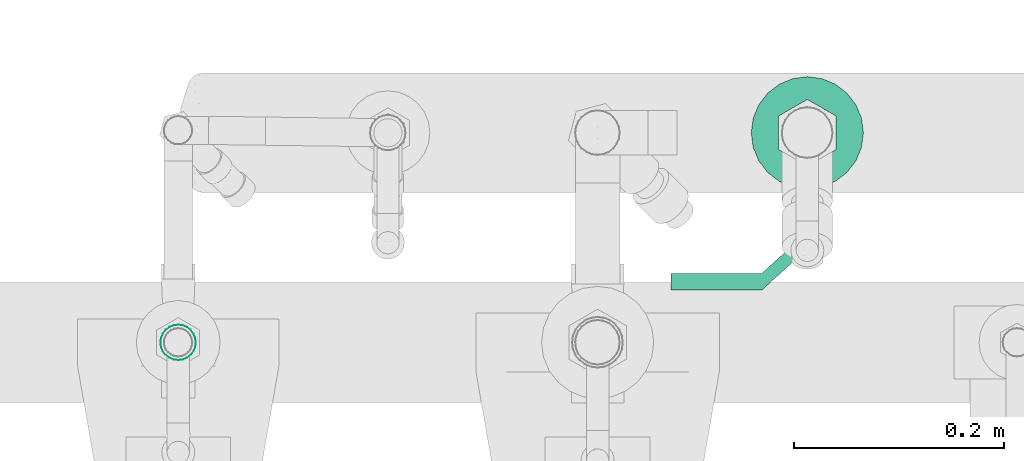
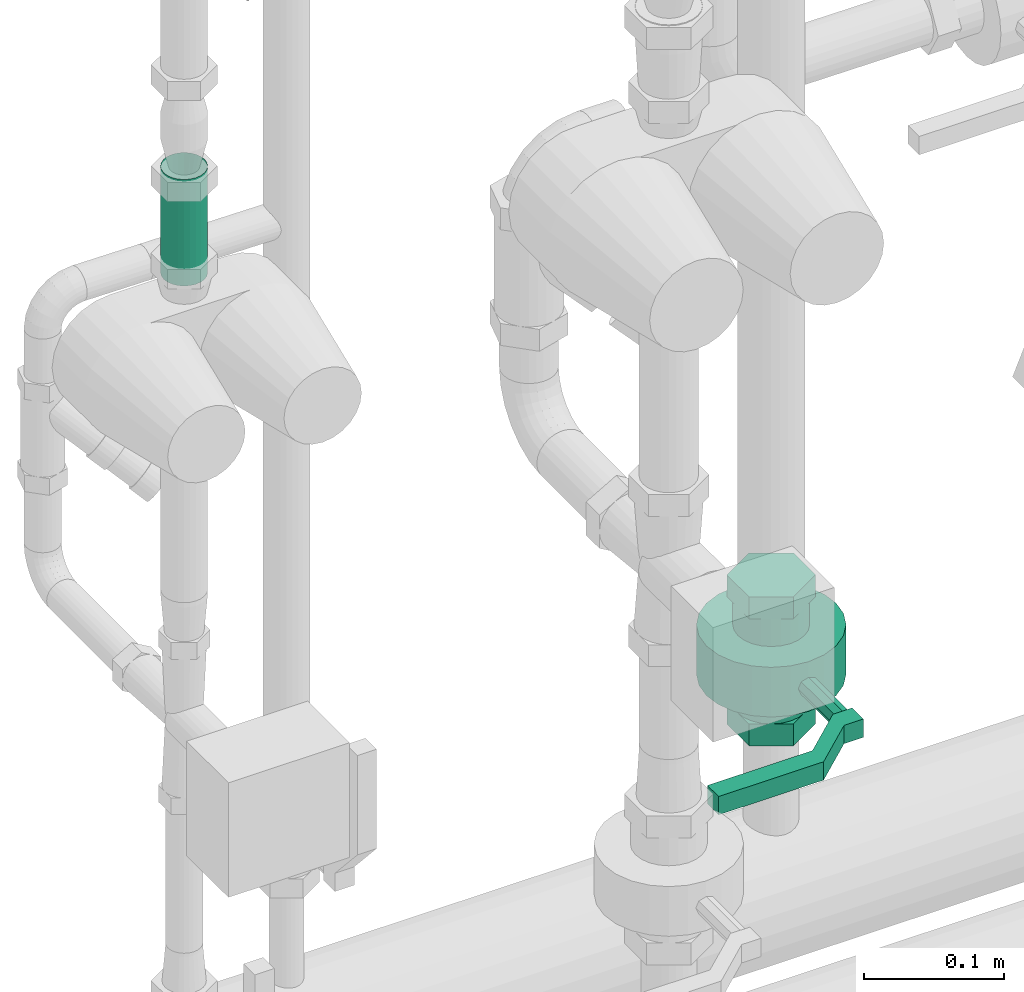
# One storey, part 85 of 374: 1 flow controller, 1 flow segment.
"""IFC2X3 building model written with IfcOpenShell, lengths in metres."""

import ifcopenshell
import ifcopenshell.guid

model = None  # the IFC model being written
_history = None  # IfcOwnerHistory: only IFC2X3 demands one
_inside = {}  # id of a spatial element -> (the spatial element, [elements in it])
_under = {}  # id of a project, library or spatial element -> (it, [spatial elements below it])
_declared = {}  # id of a project -> (the project, [libraries it declares])
_typed = {}  # id of a type object -> (the type object, [elements of that type])
_made_of = {}  # id of a material, layer set ... -> (it, [elements and type objects made of it])


def new_model(schema):
    """Start an empty IFC model of exactly this schema.

    Asked for "IFC4X3", IfcOpenShell would pick the latest addendum, in which some entities
    have other attributes; the version numbers below select the first issue.
    IFC2X3 requires an IfcOwnerHistory on every rooted entity: one is made here for all.
    """
    global model, _history
    if schema == "IFC4X3":
        model = ifcopenshell.file(schema_version=(4, 3, 0, 0))
    else:
        model = ifcopenshell.file(schema=schema)
    _inside.clear()
    _under.clear()
    _declared.clear()
    _typed.clear()
    _made_of.clear()
    _history = None
    if model.schema == "IFC2X3":
        org = make("IfcOrganization", Name="unknown")
        user = make(
            "IfcPersonAndOrganization",
            ThePerson=make("IfcPerson", FamilyName="unknown"),
            TheOrganization=org,
        )
        app = make(
            "IfcApplication",
            ApplicationDeveloper=org,
            Version="unknown",
            ApplicationFullName="unknown",
            ApplicationIdentifier="unknown",
        )
        _history = make(
            "IfcOwnerHistory",
            OwningUser=user,
            OwningApplication=app,
            ChangeAction="ADDED",
            CreationDate=0,
        )
    return model


def make(cls, **values):
    """One entity of the class cls with the attributes given. An attribute that is None is left unset."""
    return model.create_entity(
        cls, **{name: value for name, value in values.items() if value is not None}
    )


def rooted(cls, **values):
    """An entity with a GlobalId (a new one), such as an element, a storey or a relation."""
    return make(cls, GlobalId=ifcopenshell.guid.new(), OwnerHistory=_history, **values)


def si_unit(unit_type, name, prefix=None):
    """IfcSIUnit, for example si_unit("LENGTHUNIT", "METRE", prefix="MILLI")."""
    return make("IfcSIUnit", UnitType=unit_type, Prefix=prefix, Name=name)


def assignment(units):
    """IfcUnitAssignment: the units of a project."""
    return None if units is None else make("IfcUnitAssignment", Units=units)


def point(xyz):
    """IfcCartesianPoint."""
    return None if xyz is None else make("IfcCartesianPoint", Coordinates=xyz)


def direction(xyz):
    """IfcDirection."""
    return None if xyz is None else make("IfcDirection", DirectionRatios=xyz)


def frame(location, z_axis=None, x_axis=None):
    """IfcAxis2Placement3D, a coordinate frame: its origin and axes. An axis left out is left unset."""
    return make(
        "IfcAxis2Placement3D",
        Location=point(location),
        Axis=direction(z_axis),
        RefDirection=direction(x_axis),
    )


def origin():
    """The frame at (0, 0, 0) with its axes left unset."""
    return frame((0.0, 0.0, 0.0))


def place(relative_to, where):
    """IfcLocalPlacement: puts the frame where relative to a parent placement (None: the world)."""
    return make(
        "IfcLocalPlacement", PlacementRelTo=relative_to, RelativePlacement=where
    )


def context(
    kind, dimensions, precision=None, world=None, true_north=None, identifier=None
):
    """IfcGeometricRepresentationContext, for example the 3D "Model" context."""
    return make(
        "IfcGeometricRepresentationContext",
        ContextIdentifier=identifier,
        ContextType=kind,
        CoordinateSpaceDimension=dimensions,
        Precision=precision,
        WorldCoordinateSystem=world,
        TrueNorth=true_north,
    )


def subcontext(parent, identifier, kind, view, scale=None):
    """IfcGeometricRepresentationSubContext, for example "Body" below "Model"."""
    return make(
        "IfcGeometricRepresentationSubContext",
        ContextIdentifier=identifier,
        ContextType=kind,
        ParentContext=parent,
        TargetScale=scale,
        TargetView=view,
    )


def project(units=None, contexts=None):
    """IfcProject with its units and contexts."""
    return rooted(
        "IfcProject",
        Name="project",
        RepresentationContexts=contexts,
        UnitsInContext=assignment(units),
    )


def spatial(cls, under=None, at=None, **own):
    """A site, building, storey or space (cls), placed at a placement, below another one or the project."""
    s = rooted(cls, ObjectPlacement=at, **own)
    if under is not None:
        _under.setdefault(under.id(), (under, []))[1].append(s)
    return s


def faces_of(points, faces, orient=None, outer=None):
    """IfcFace entities. A face is a list of loops; a loop is a list of indices into points, from 0.

    orient and outer hold one flag for each loop. By default every Orientation is true, the
    first loop of a face is its IfcFaceOuterBound and the others are IfcFaceBound.
    """
    made = []
    for i, loops in enumerate(faces):
        bounds = []
        for j, loop in enumerate(loops):
            is_outer = j == 0 if outer is None else outer[i][j]
            bounds.append(
                make(
                    "IfcFaceOuterBound" if is_outer else "IfcFaceBound",
                    Bound=make("IfcPolyLoop", Polygon=[points[k] for k in loop]),
                    Orientation=True if orient is None else orient[i][j],
                )
            )
        made.append(make("IfcFace", Bounds=bounds))
    return made


def open_shell(faces, orient=None, outer=None):
    """The faces of one IfcOpenShell. surface_model builds it on its shared points."""
    return ("IfcOpenShell", faces, orient, outer)


def surface_model(cls, points, shells):
    """IfcFaceBasedSurfaceModel or IfcShellBasedSurfaceModel (cls): surfaces that need not close."""
    shared = [point(p) for p in points]
    made = [make(c, CfsFaces=faces_of(shared, fs, o, b)) for c, fs, o, b in shells]
    if cls == "IfcFaceBasedSurfaceModel":
        return make(cls, FbsmFaces=made)
    return make(cls, SbsmBoundary=made)


def shape(context_of_items, identifier, shape_type, items):
    """IfcShapeRepresentation: the items that make up one representation, for example the "Body"."""
    return make(
        "IfcShapeRepresentation",
        ContextOfItems=context_of_items,
        RepresentationIdentifier=identifier,
        RepresentationType=shape_type,
        Items=items,
    )


def source(mapping_origin, context_of_items, identifier, shape_type, items):
    """IfcRepresentationMap: a shape defined once, which mapped items show again and again."""
    return make(
        "IfcRepresentationMap",
        MappingOrigin=mapping_origin,
        MappedRepresentation=shape(context_of_items, identifier, shape_type, items),
    )


def transform(
    local_origin,
    x_axis=None,
    y_axis=None,
    z_axis=None,
    scale=None,
    scale2=None,
    scale3=None,
    uniform=True,
):
    """IfcCartesianTransformationOperator3D, or its non-uniform kind. x_axis, y_axis, z_axis: its Axis1, 2, 3."""
    if uniform:
        return make(
            "IfcCartesianTransformationOperator3D",
            Axis1=direction(x_axis),
            Axis2=direction(y_axis),
            LocalOrigin=point(local_origin),
            Scale=scale,
            Axis3=direction(z_axis),
        )
    return make(
        "IfcCartesianTransformationOperator3DnonUniform",
        Axis1=direction(x_axis),
        Axis2=direction(y_axis),
        LocalOrigin=point(local_origin),
        Scale=scale,
        Axis3=direction(z_axis),
        Scale2=scale2,
        Scale3=scale3,
    )


def mapped(mapping_source, mapping_target):
    """IfcMappedItem: shows the shape of a source again, moved by a transform."""
    return make(
        "IfcMappedItem", MappingSource=mapping_source, MappingTarget=mapping_target
    )


def made_of(thing, what):
    """Note that an element or type object is made of a material, layer set ...; save() writes the relation."""
    if what is not None:
        _made_of.setdefault(what.id(), (what, []))[1].append(thing)
    return thing


def element(
    cls,
    number,
    at=None,
    inside=None,
    cuts=None,
    type_object=None,
    material=None,
    context=None,
    identifier="Body",
    shape_type=None,
    held_by="IfcProductDefinitionShape",
    body=None,
    shapes=None,
    **own,
):
    """One element of the class cls, such as IfcWall. Its Tag is "e" and its number.

    at: its placement. inside: the storey or other place that contains it. cuts: it is an
    opening in that element (IfcRelVoidsElement). A single representation is given by context,
    identifier, shape_type and body (its items); several are given by shapes. held_by: the class
    of the entity that holds the representations. save() writes the other relations.
    """
    e = rooted(cls, Tag="e%d" % number, ObjectPlacement=at, **own)
    if body is not None:
        shapes = [shape(context, identifier, shape_type, body)]
    if shapes is not None:
        e.Representation = make(held_by, Representations=shapes)
    if inside is not None:
        _inside.setdefault(inside.id(), (inside, []))[1].append(e)
    if cuts is not None:
        rooted(
            "IfcRelVoidsElement", RelatingBuildingElement=cuts, RelatedOpeningElement=e
        )
    if type_object is not None:
        _typed.setdefault(type_object.id(), (type_object, []))[1].append(e)
    return made_of(e, material)


def aggregate(whole, parts):
    """IfcRelAggregates: a whole, such as a stair, and the parts it consists of."""
    return rooted("IfcRelAggregates", RelatingObject=whole, RelatedObjects=parts)


def save(model, path):
    """Write the relations noted so far, then the file.

    IfcRelAggregates (storeys below a building ...), IfcRelContainedInSpatialStructure (elements
    in a storey), IfcRelDefinesByType, IfcRelAssociatesMaterial and IfcRelDeclares: one each for
    every whole, place, type object, material and project.
    """
    for whole, parts in _under.values():
        aggregate(whole, parts)
    for where, things in _inside.values():
        rooted(
            "IfcRelContainedInSpatialStructure",
            RelatedElements=things,
            RelatingStructure=where,
        )
    for kind, things in _typed.values():
        rooted("IfcRelDefinesByType", RelatedObjects=things, RelatingType=kind)
    for what, things in _made_of.values():
        rooted("IfcRelAssociatesMaterial", RelatedObjects=things, RelatingMaterial=what)
    for by, libraries in _declared.values():
        rooted("IfcRelDeclares", RelatingContext=by, RelatedDefinitions=libraries)
    model.write(path)


model = new_model("IFC2X3")

# Units and contexts
model_context = context("Model", 3, precision=1e-05, world=origin(), true_north=direction((-0.4480736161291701, 0.8939966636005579)))
body_context = subcontext(model_context, "Body", "Model", "MODEL_VIEW")
ifc_project = project(units=[si_unit("LENGTHUNIT", "METRE"), si_unit("AREAUNIT", "SQUARE_METRE"), si_unit("VOLUMEUNIT", "CUBIC_METRE"), si_unit("PLANEANGLEUNIT", "RADIAN"), si_unit("THERMODYNAMICTEMPERATUREUNIT", "KELVIN"), si_unit("MASSUNIT", "GRAM", prefix="KILO"), si_unit("TIMEUNIT", "SECOND")], contexts=[model_context])

# Site, building, storey
site_placement = place(None, origin())
site = spatial("IfcSite", under=ifc_project, at=site_placement, Name="Site 1", CompositionType="ELEMENT")
building_placement = place(site_placement, origin())
building = spatial("IfcBuilding", under=site, at=building_placement, Name="Undefined", CompositionType="ELEMENT")
storey_placement = place(building_placement, origin())
storey = spatial("IfcBuildingStorey", under=building, at=storey_placement, Name="Rez de chauss\x8ee", CompositionType="ELEMENT", Elevation=0.0)

# Flow segment
shared_shape_1 = source(origin(), body_context, "Body", "SurfaceModel", [
    surface_model("IfcFaceBasedSurfaceModel", [(0.0, 0.004398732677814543, 0.0), (0.0, 0.0, 0.0), (0.09294752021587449, 8.8817842e-16, 0.0), (0.09294752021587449, 0.004398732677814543, 0.0), (0.0, -0.004248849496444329, -0.00113847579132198), (0.09294752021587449, -0.004248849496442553, -0.0011384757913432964), (0.0, -0.008058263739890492, -0.003337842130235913), (0.09294752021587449, -0.008058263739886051, -0.003337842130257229), (0.0, -0.01116863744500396, -0.0064482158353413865), (0.09294752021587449, -0.01116863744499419, -0.006448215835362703), (0.0, -0.013368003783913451, -0.010257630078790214), (0.09294752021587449, -0.013368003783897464, -0.010257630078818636), (0.0, -0.014506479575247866, -0.014506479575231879), (0.09294752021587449, -0.014506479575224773, -0.0145064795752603), (0.0, -0.01450647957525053, -0.01890521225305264), (0.09294752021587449, -0.014506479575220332, -0.018905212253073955), (0.0, -0.013368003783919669, -0.023154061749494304), (0.09294752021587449, -0.013368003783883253, -0.023154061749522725), (0.0, -0.011168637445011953, -0.02696347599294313), (0.09294752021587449, -0.011168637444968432, -0.026963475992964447), (0.0, -0.008058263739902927, -0.03007384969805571), (0.09294752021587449, -0.008058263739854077, -0.03007384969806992), (0.0, -0.004248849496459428, -0.03227321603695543), (0.09294752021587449, -0.004248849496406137, -0.03227321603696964), (0.0, -1.5099033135e-14, -0.03341169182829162), (0.09294752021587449, 3.8191672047e-14, -0.03341169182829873), (0.0, 0.00439873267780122, -0.03341169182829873), (0.09294752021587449, 0.004398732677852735, -0.03341169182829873), (0.0, 0.008647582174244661, -0.03227321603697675), (0.09294752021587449, 0.008647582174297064, -0.03227321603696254), (0.0, 0.012456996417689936, -0.030073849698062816), (0.09294752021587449, 0.012456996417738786, -0.0300738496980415), (0.0, 0.01556737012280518, -0.026963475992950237), (0.09294752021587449, 0.015567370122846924, -0.026963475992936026), (0.0, 0.017766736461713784, -0.023154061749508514), (0.09294752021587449, 0.01776673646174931, -0.023154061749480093), (0.0, 0.018905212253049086, -0.01890521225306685), (0.09294752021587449, 0.018905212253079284, -0.018905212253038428), (0.0, 0.018905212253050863, -0.01450647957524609), (0.09294752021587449, 0.01890521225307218, -0.014506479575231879), (0.0, 0.01776673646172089, -0.01025763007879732), (0.09294752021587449, 0.017766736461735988, -0.010257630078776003), (0.0, 0.015567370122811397, -0.006448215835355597), (0.09294752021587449, 0.015567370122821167, -0.006448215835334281), (0.0, 0.012456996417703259, -0.0033378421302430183), (0.09294752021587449, 0.012456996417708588, -0.003337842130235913), (0.0, 0.00864758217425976, -0.0011384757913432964), (0.09294752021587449, 0.00864758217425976, -0.0011384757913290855)], [open_shell([[[0, 1, 2, 3]], [[1, 4, 5, 2]], [[4, 6, 7, 5]], [[6, 8, 9, 7]], [[8, 10, 11, 9]], [[10, 12, 13, 11]], [[12, 14, 15, 13]], [[14, 16, 17, 15]], [[16, 18, 19, 17]], [[18, 20, 21, 19]], [[20, 22, 23, 21]], [[22, 24, 25, 23]], [[24, 26, 27, 25]], [[26, 28, 29, 27]], [[28, 30, 31, 29]], [[30, 32, 33, 31]], [[32, 34, 35, 33]], [[34, 36, 37, 35]], [[36, 38, 39, 37]], [[38, 40, 41, 39]], [[40, 42, 43, 41]], [[42, 44, 45, 43]], [[44, 46, 47, 45]], [[46, 0, 3, 47]]])]),
])
flow_segment_placement = place(storey_placement, origin())
element("IfcFlowSegment", 1, at=flow_segment_placement, inside=storey, Name="Tube acier d'après DIN 2448", ObjectType="Tube acier d'après DIN 2448", context=body_context, shape_type="MappedRepresentation", body=[
    mapped(shared_shape_1, transform((52.07383786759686, 10.722398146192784, 1.1632), x_axis=(0.0, 0.0, 1.0), y_axis=(0.13052619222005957, -0.9914448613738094, 0.0), z_axis=(0.9914448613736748, 0.13052619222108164, 0.0))),
])

# Flow controller
shared_shape_2 = source(origin(), body_context, "Body", "SurfaceModel", [
    surface_model("IfcFaceBasedSurfaceModel", [(0.0, 0.015999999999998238, 0.0), (0.0, 0.0, 0.0), (0.016000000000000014, 0.0, 0.0), (0.016000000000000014, 0.015999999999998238, 0.0), (0.0, 0.0, 0.016000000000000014), (0.016000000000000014, 0.0, 0.016000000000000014), (0.0, 0.015999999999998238, 0.016000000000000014), (0.016000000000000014, 0.015999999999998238, 0.016000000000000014), (0.0, 0.051333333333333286, 0.04800000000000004), (0.016000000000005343, 0.051333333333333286, 0.04800000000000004), (0.0, 0.13800000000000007, 0.04800000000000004), (0.016000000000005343, 0.13800000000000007, 0.04800000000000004), (0.0, 0.13800000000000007, 0.03200000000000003), (0.016000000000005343, 0.13800000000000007, 0.03200000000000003), (0.0, 0.051333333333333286, 0.03200000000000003), (0.016000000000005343, 0.051333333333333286, 0.03200000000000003), (-0.05700000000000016, -0.01950000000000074, -0.11787713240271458), (-0.05700000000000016, -0.01950000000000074, -0.08612286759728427), (-0.03790000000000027, -0.01950000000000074, -0.08612286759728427), (-0.03790000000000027, -0.01950000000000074, -0.11787713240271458), (-0.05700000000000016, 0.008000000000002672, -0.13375426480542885), (-0.03790000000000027, 0.008000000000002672, -0.13375426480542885), (-0.05700000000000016, 0.03549999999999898, -0.11787713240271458), (-0.03790000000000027, 0.03549999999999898, -0.11787713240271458), (-0.05700000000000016, 0.03549999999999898, -0.08612286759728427), (-0.03790000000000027, 0.03549999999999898, -0.08612286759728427), (-0.05700000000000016, 0.008000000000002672, -0.07024573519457), (-0.03790000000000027, 0.008000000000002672, -0.07024573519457), (-0.03790000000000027, 0.03549999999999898, -0.10200000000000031), (-0.03790000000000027, 0.03456296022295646, -0.09488247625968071), (-0.013666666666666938, 0.03456296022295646, -0.09488247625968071), (-0.013666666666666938, 0.03549999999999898, -0.10200000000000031), (-0.03790000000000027, 0.03181569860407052, -0.08825000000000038), (-0.013666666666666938, 0.03181569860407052, -0.08825000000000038), (-0.03790000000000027, 0.02744543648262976, -0.08255456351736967), (-0.013666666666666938, 0.02744543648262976, -0.08255456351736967), (-0.03790000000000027, 0.021750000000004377, -0.07818430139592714), (-0.013666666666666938, 0.021750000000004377, -0.07818430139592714), (-0.03790000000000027, 0.01511752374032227, -0.07543703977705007), (-0.013666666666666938, 0.01511752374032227, -0.07543703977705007), (-0.03790000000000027, 0.008000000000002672, -0.07449999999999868), (-0.013666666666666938, 0.008000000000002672, -0.07449999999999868), (-0.03790000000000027, 0.0008824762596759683, -0.07543703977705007), (-0.013666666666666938, 0.0008824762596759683, -0.07543703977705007), (-0.03790000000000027, -0.005749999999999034, -0.07818430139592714), (-0.013666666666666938, -0.005749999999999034, -0.07818430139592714), (-0.03790000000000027, -0.011445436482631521, -0.08255456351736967), (-0.013666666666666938, -0.011445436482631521, -0.08255456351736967), (-0.03790000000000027, -0.01581569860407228, -0.08825000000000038), (-0.013666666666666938, -0.01581569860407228, -0.08825000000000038), (-0.03790000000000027, -0.01856296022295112, -0.09488247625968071), (-0.013666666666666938, -0.01856296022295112, -0.09488247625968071), (-0.03790000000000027, -0.01950000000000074, -0.10200000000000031), (-0.013666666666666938, -0.01950000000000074, -0.10200000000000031), (-0.03790000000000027, -0.01856296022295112, -0.10911752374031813), (-0.013666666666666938, -0.01856296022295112, -0.10911752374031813), (-0.03790000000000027, -0.01581569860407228, -0.11575000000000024), (-0.013666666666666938, -0.01581569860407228, -0.11575000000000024), (-0.03790000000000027, -0.011445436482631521, -0.12144543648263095), (-0.013666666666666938, -0.011445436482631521, -0.12144543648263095), (-0.03790000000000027, -0.005749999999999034, -0.1258156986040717), (-0.013666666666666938, -0.005749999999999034, -0.1258156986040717), (-0.03790000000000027, 0.0008824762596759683, -0.12856296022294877), (-0.013666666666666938, 0.0008824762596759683, -0.12856296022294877), (-0.03790000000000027, 0.008000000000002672, -0.12950000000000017), (-0.013666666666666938, 0.008000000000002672, -0.12950000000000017), (-0.03790000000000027, 0.01511752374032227, -0.12856296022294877), (-0.013666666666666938, 0.01511752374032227, -0.12856296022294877), (-0.03790000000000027, 0.021750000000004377, -0.1258156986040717), (-0.013666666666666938, 0.021750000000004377, -0.1258156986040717), (-0.03790000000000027, 0.02744543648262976, -0.12144543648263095), (-0.013666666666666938, 0.02744543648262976, -0.12144543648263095), (-0.03790000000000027, 0.03181569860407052, -0.11575000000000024), (-0.013666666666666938, 0.03181569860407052, -0.11575000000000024), (-0.03790000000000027, 0.03456296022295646, -0.10911752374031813), (-0.013666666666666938, 0.03456296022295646, -0.10911752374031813), (-0.013666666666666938, 0.06150000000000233, -0.10200000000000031), (-0.013666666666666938, 0.05967703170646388, -0.08815318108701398), (0.02966666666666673, 0.05967703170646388, -0.08815318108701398), (0.02966666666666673, 0.06150000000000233, -0.10200000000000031), (-0.013666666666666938, 0.054332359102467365, -0.0752499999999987), (0.02966666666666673, 0.054332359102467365, -0.0752499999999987), (-0.013666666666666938, 0.04583021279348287, -0.06416978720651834), (0.02966666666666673, 0.04583021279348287, -0.06416978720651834), (-0.013666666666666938, 0.0347500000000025, -0.05566764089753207), (0.02966666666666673, 0.0347500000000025, -0.05566764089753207), (-0.013666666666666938, 0.02184681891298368, -0.050322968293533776), (0.02966666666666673, 0.02184681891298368, -0.050322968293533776), (-0.013666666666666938, 0.008000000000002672, -0.04849999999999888), (0.02966666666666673, 0.008000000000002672, -0.04849999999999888), (-0.013666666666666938, -0.005846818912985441, -0.050322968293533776), (0.02966666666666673, -0.005846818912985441, -0.050322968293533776), (-0.013666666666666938, -0.018749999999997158, -0.05566764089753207), (0.02966666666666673, -0.018749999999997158, -0.05566764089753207), (-0.013666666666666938, -0.02983021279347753, -0.06416978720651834), (0.02966666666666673, -0.02983021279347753, -0.06416978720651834), (-0.013666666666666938, -0.03833235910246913, -0.0752499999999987), (0.02966666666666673, -0.03833235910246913, -0.0752499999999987), (-0.013666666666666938, -0.04367703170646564, -0.08815318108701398), (0.02966666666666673, -0.04367703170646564, -0.08815318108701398), (-0.013666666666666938, -0.04549999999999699, -0.10200000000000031), (0.02966666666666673, -0.04549999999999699, -0.10200000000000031), (-0.013666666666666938, -0.04367703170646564, -0.11584681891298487), (0.02966666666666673, -0.04367703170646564, -0.11584681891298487), (-0.013666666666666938, -0.03833235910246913, -0.12875000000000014), (0.02966666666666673, -0.03833235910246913, -0.12875000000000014), (-0.013666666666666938, -0.02983021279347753, -0.1398302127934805), (0.02966666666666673, -0.02983021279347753, -0.1398302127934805), (-0.013666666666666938, -0.018749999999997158, -0.14833235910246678), (0.02966666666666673, -0.018749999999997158, -0.14833235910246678), (-0.013666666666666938, -0.005846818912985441, -0.15367703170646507), (0.02966666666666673, -0.005846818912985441, -0.15367703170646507), (-0.013666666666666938, 0.008000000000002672, -0.15549999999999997), (0.02966666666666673, 0.008000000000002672, -0.15549999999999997), (-0.013666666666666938, 0.02184681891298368, -0.15367703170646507), (0.02966666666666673, 0.02184681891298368, -0.15367703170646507), (-0.013666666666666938, 0.0347500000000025, -0.14833235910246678), (0.02966666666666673, 0.0347500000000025, -0.14833235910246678), (-0.013666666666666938, 0.04583021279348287, -0.1398302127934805), (0.02966666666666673, 0.04583021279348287, -0.1398302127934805), (-0.013666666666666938, 0.054332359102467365, -0.12875000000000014), (0.02966666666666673, 0.054332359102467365, -0.12875000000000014), (-0.013666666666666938, 0.05967703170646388, -0.11584681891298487), (0.02966666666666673, 0.05967703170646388, -0.11584681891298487), (-0.013666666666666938, 0.008000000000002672, -0.10200000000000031), (0.02966666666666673, 0.008000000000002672, -0.10200000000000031), (0.02966666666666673, 0.03549999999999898, -0.10200000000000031), (0.02966666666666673, 0.03456296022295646, -0.09488247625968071), (0.05390000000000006, 0.03456296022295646, -0.09488247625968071), (0.05390000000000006, 0.03549999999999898, -0.10200000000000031), (0.02966666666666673, 0.03181569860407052, -0.08825000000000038), (0.05390000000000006, 0.03181569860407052, -0.08825000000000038), (0.02966666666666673, 0.02744543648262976, -0.08255456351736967), (0.05390000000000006, 0.02744543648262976, -0.08255456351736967), (0.02966666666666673, 0.021750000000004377, -0.07818430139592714), (0.05390000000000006, 0.021750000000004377, -0.07818430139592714), (0.02966666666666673, 0.01511752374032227, -0.07543703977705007), (0.05390000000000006, 0.01511752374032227, -0.07543703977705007), (0.02966666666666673, 0.008000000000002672, -0.07449999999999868), (0.05390000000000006, 0.008000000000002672, -0.07449999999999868), (0.02966666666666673, 0.0008824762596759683, -0.07543703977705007), (0.05390000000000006, 0.0008824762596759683, -0.07543703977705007), (0.02966666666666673, -0.005749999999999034, -0.07818430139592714), (0.05390000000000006, -0.005749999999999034, -0.07818430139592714), (0.02966666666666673, -0.011445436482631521, -0.08255456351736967), (0.05390000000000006, -0.011445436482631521, -0.08255456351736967), (0.02966666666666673, -0.01581569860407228, -0.08825000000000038), (0.05390000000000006, -0.01581569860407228, -0.08825000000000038), (0.02966666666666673, -0.01856296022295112, -0.09488247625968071), (0.05390000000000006, -0.01856296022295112, -0.09488247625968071), (0.02966666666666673, -0.01950000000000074, -0.10200000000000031), (0.05390000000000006, -0.01950000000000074, -0.10200000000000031), (0.02966666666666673, -0.01856296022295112, -0.10911752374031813), (0.05390000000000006, -0.01856296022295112, -0.10911752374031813), (0.02966666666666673, -0.01581569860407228, -0.11575000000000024), (0.05390000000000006, -0.01581569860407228, -0.11575000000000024), (0.02966666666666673, -0.011445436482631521, -0.12144543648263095), (0.05390000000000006, -0.011445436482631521, -0.12144543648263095), (0.02966666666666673, -0.005749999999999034, -0.1258156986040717), (0.05390000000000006, -0.005749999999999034, -0.1258156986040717), (0.02966666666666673, 0.0008824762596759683, -0.12856296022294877), (0.05390000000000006, 0.0008824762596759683, -0.12856296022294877), (0.02966666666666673, 0.008000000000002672, -0.12950000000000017), (0.05390000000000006, 0.008000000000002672, -0.12950000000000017), (0.02966666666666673, 0.01511752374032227, -0.12856296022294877), (0.05390000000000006, 0.01511752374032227, -0.12856296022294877), (0.02966666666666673, 0.021750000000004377, -0.1258156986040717), (0.05390000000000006, 0.021750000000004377, -0.1258156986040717), (0.02966666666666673, 0.02744543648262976, -0.12144543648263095), (0.05390000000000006, 0.02744543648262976, -0.12144543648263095), (0.02966666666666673, 0.03181569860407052, -0.11575000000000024), (0.05390000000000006, 0.03181569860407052, -0.11575000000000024), (0.02966666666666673, 0.03456296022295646, -0.10911752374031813), (0.05390000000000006, 0.03456296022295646, -0.10911752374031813), (0.05390000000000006, -0.01950000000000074, -0.11787713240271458), (0.05390000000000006, -0.01950000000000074, -0.08612286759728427), (0.07299999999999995, -0.01950000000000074, -0.08612286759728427), (0.07299999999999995, -0.01950000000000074, -0.11787713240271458), (0.05390000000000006, 0.008000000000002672, -0.13375426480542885), (0.07299999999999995, 0.008000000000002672, -0.13375426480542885), (0.05390000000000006, 0.03549999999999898, -0.11787713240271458), (0.07299999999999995, 0.03549999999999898, -0.11787713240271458), (0.05390000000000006, 0.03549999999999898, -0.08612286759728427), (0.07299999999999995, 0.03549999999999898, -0.08612286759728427), (0.05390000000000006, 0.008000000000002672, -0.07024573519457), (0.07299999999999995, 0.008000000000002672, -0.07024573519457), (0.015999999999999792, 0.008000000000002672, -0.10200000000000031), (0.013656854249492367, 0.01365685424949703, -0.10200000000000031), (0.013656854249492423, 0.013656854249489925, 0.0), (0.016000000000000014, 0.008000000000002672, 0.0), (0.008000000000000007, 0.015999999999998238, -0.10200000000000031), (0.008000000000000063, 0.015999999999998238, 0.0), (0.002343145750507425, 0.01365685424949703, -0.10200000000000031), (0.002343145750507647, 0.013656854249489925, 0.0), (0.0, 0.008000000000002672, -0.10200000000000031), (0.0, 0.008, 0.0), (0.002343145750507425, 0.002343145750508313, -0.10200000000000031), (0.002343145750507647, 0.002343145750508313, 0.0), (0.008000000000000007, 0.0, -0.10200000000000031), (0.008000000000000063, 0.0, 0.0), (0.013656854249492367, 0.002343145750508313, -0.10200000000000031), (0.013656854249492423, 0.002343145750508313, 0.0)], [open_shell([[[0, 1, 2, 3]], [[1, 4, 5, 2]], [[4, 6, 7, 5]], [[6, 8, 9, 7]], [[8, 10, 11, 9]], [[10, 12, 13, 11]], [[12, 14, 15, 13]], [[14, 0, 3, 15]], [[3, 7, 2]], [[7, 3, 9]], [[15, 9, 3]], [[9, 15, 11]], [[13, 11, 15]], [[5, 2, 7]], [[1, 6, 0]], [[8, 0, 6]], [[0, 8, 14]], [[10, 14, 8]], [[14, 10, 12]], [[6, 1, 4]], [[16, 17, 18, 19]], [[20, 16, 19, 21]], [[22, 20, 21, 23]], [[24, 22, 23, 25]], [[26, 24, 25, 27]], [[17, 26, 27, 18]], [[17, 16, 20]], [[17, 20, 22]], [[17, 22, 24]], [[17, 24, 26]], [[18, 21, 19]], [[18, 23, 21]], [[18, 25, 23]], [[18, 27, 25]], [[28, 29, 30, 31]], [[29, 32, 33, 30]], [[32, 34, 35, 33]], [[34, 36, 37, 35]], [[36, 38, 39, 37]], [[38, 40, 41, 39]], [[40, 42, 43, 41]], [[42, 44, 45, 43]], [[44, 46, 47, 45]], [[46, 48, 49, 47]], [[48, 50, 51, 49]], [[50, 52, 53, 51]], [[52, 54, 55, 53]], [[54, 56, 57, 55]], [[56, 58, 59, 57]], [[58, 60, 61, 59]], [[60, 62, 63, 61]], [[62, 64, 65, 63]], [[64, 66, 67, 65]], [[66, 68, 69, 67]], [[68, 70, 71, 69]], [[70, 72, 73, 71]], [[72, 74, 75, 73]], [[74, 28, 31, 75]], [[76, 77, 78, 79]], [[77, 80, 81, 78]], [[80, 82, 83, 81]], [[82, 84, 85, 83]], [[84, 86, 87, 85]], [[86, 88, 89, 87]], [[88, 90, 91, 89]], [[90, 92, 93, 91]], [[92, 94, 95, 93]], [[94, 96, 97, 95]], [[96, 98, 99, 97]], [[98, 100, 101, 99]], [[100, 102, 103, 101]], [[102, 104, 105, 103]], [[104, 106, 107, 105]], [[106, 108, 109, 107]], [[108, 110, 111, 109]], [[110, 112, 113, 111]], [[112, 114, 115, 113]], [[114, 116, 117, 115]], [[116, 118, 119, 117]], [[118, 120, 121, 119]], [[120, 122, 123, 121]], [[122, 76, 79, 123]], [[124, 77, 76]], [[124, 80, 77]], [[124, 82, 80]], [[124, 84, 82]], [[124, 86, 84]], [[124, 88, 86]], [[124, 90, 88]], [[124, 92, 90]], [[124, 94, 92]], [[124, 96, 94]], [[124, 98, 96]], [[124, 100, 98]], [[124, 102, 100]], [[124, 104, 102]], [[124, 106, 104]], [[124, 108, 106]], [[124, 110, 108]], [[124, 112, 110]], [[124, 114, 112]], [[124, 116, 114]], [[124, 118, 116]], [[124, 120, 118]], [[124, 122, 120]], [[124, 76, 122]], [[125, 123, 79]], [[125, 121, 123]], [[125, 119, 121]], [[125, 117, 119]], [[125, 115, 117]], [[125, 113, 115]], [[125, 111, 113]], [[125, 109, 111]], [[125, 107, 109]], [[125, 105, 107]], [[125, 103, 105]], [[125, 101, 103]], [[125, 99, 101]], [[125, 97, 99]], [[125, 95, 97]], [[125, 93, 95]], [[125, 91, 93]], [[125, 89, 91]], [[125, 87, 89]], [[125, 85, 87]], [[125, 83, 85]], [[125, 81, 83]], [[125, 78, 81]], [[125, 79, 78]], [[126, 127, 128, 129]], [[127, 130, 131, 128]], [[130, 132, 133, 131]], [[132, 134, 135, 133]], [[134, 136, 137, 135]], [[136, 138, 139, 137]], [[138, 140, 141, 139]], [[140, 142, 143, 141]], [[142, 144, 145, 143]], [[144, 146, 147, 145]], [[146, 148, 149, 147]], [[148, 150, 151, 149]], [[150, 152, 153, 151]], [[152, 154, 155, 153]], [[154, 156, 157, 155]], [[156, 158, 159, 157]], [[158, 160, 161, 159]], [[160, 162, 163, 161]], [[162, 164, 165, 163]], [[164, 166, 167, 165]], [[166, 168, 169, 167]], [[168, 170, 171, 169]], [[170, 172, 173, 171]], [[172, 126, 129, 173]], [[174, 175, 176, 177]], [[178, 174, 177, 179]], [[180, 178, 179, 181]], [[182, 180, 181, 183]], [[184, 182, 183, 185]], [[175, 184, 185, 176]], [[175, 174, 178]], [[175, 178, 180]], [[175, 180, 182]], [[175, 182, 184]], [[176, 179, 177]], [[176, 181, 179]], [[176, 183, 181]], [[176, 185, 183]], [[186, 187, 188, 189]], [[187, 190, 191, 188]], [[190, 192, 193, 191]], [[192, 194, 195, 193]], [[194, 196, 197, 195]], [[196, 198, 199, 197]], [[198, 200, 201, 199]], [[200, 186, 189, 201]]])]),
])
flow_controller_placement = place(storey_placement, origin())
element("IfcFlowController", 2, at=flow_controller_placement, inside=storey, Name="Robinet à boisseau sphérique", ObjectType="Robinet à boisseau sphérique", context=body_context, shape_type="MappedRepresentation", body=[
    mapped(shared_shape_2, transform((52.66556201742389, 10.81603704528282, 0.49504999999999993), x_axis=(0.0, 0.0, 1.0), y_axis=(-1.0, 0.0, 0.0), z_axis=(0.0, -1.0, 0.0))),
])

save(model, "model.ifc")
